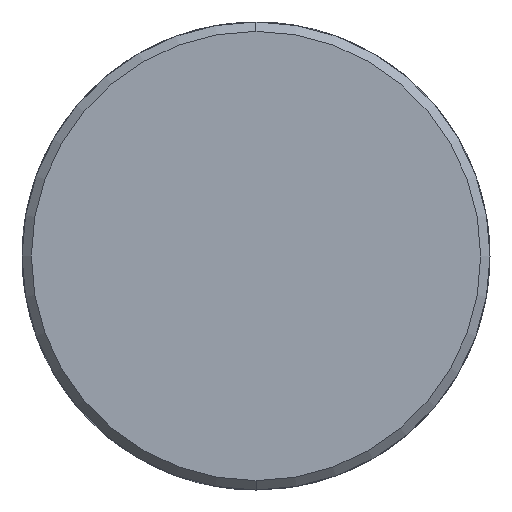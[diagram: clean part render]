
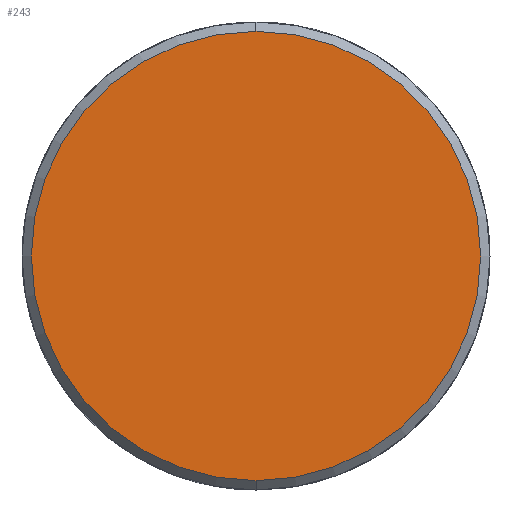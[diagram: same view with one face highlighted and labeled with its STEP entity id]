
A CAD part, left-side view. The second image highlights one B-rep face of the part: STEP entity #243.
In plain terms, the highlighted planar face has unit normal (-1, 0, 0).
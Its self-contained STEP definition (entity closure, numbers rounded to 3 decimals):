
#243 = ADVANCED_FACE ( 'NONE', ( #5914 ), #8981, .T. ) ;
#259 = EDGE_CURVE ( 'NONE', #1455, #8688, #3995, .T. ) ;
#1070 = EDGE_LOOP ( 'NONE', ( #1964, #4507 ) ) ;
#1455 = VERTEX_POINT ( 'NONE', #4905 ) ;
#1964 = ORIENTED_EDGE ( 'NONE', *, *, #6704, .F. ) ;
#3995 = CIRCLE ( 'NONE', #5343, 12. ) ;
#4321 = CARTESIAN_POINT ( 'NONE',  ( 0., 0., -12. ) ) ;
#4507 = ORIENTED_EDGE ( 'NONE', *, *, #259, .F. ) ;
#4531 = CIRCLE ( 'NONE', #4931, 12. ) ;
#4905 = CARTESIAN_POINT ( 'NONE',  ( 0., 0., 12. ) ) ;
#4931 = AXIS2_PLACEMENT_3D ( 'NONE', #6806, #6781, #6773 ) ;
#5343 = AXIS2_PLACEMENT_3D ( 'NONE', #8746, #8739, #8732 ) ;
#5914 = FACE_OUTER_BOUND ( 'NONE', #1070, .T. ) ;
#6704 = EDGE_CURVE ( 'NONE', #8688, #1455, #4531, .T. ) ;
#6773 = DIRECTION ( 'NONE',  ( 0., 0., -1. ) ) ;
#6781 = DIRECTION ( 'NONE',  ( 1., 0., 0. ) ) ;
#6806 = CARTESIAN_POINT ( 'NONE',  ( 0., 0., 0. ) ) ;
#7609 = AXIS2_PLACEMENT_3D ( 'NONE', #8814, #8803, #8796 ) ;
#8688 = VERTEX_POINT ( 'NONE', #4321 ) ;
#8732 = DIRECTION ( 'NONE',  ( 0., 0., -1. ) ) ;
#8739 = DIRECTION ( 'NONE',  ( 1., 0., 0. ) ) ;
#8746 = CARTESIAN_POINT ( 'NONE',  ( 0., 0., 0. ) ) ;
#8796 = DIRECTION ( 'NONE',  ( 0., 0., 1. ) ) ;
#8803 = DIRECTION ( 'NONE',  ( -1., 0., 0. ) ) ;
#8814 = CARTESIAN_POINT ( 'NONE',  ( 0., 0., 0. ) ) ;
#8981 = PLANE ( 'NONE',  #7609 ) ;
